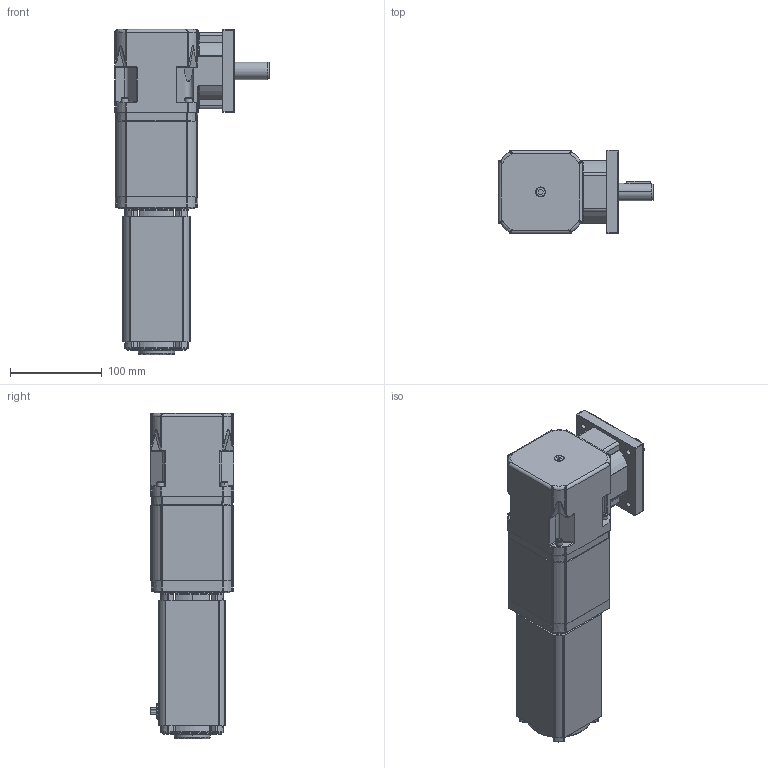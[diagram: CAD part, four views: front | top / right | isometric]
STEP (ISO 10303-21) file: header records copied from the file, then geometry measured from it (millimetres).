
FILE_DESCRIPTION (( 'STEP AP214' ), '1' );
FILE_NAME ('BL6560-RP7300_2S.STEP', '2013-08-28T18:02:41', ( '' ), ( '' ), 'SwSTEP 2.0', 'SolidWorks 2013', '' );
FILE_SCHEMA (( 'AUTOMOTIVE_DESIGN' ));
Length unit declared in the file: inch
Products named in the file (1): BL6560-RP7300_2S
Bounding box: 167.94 x 91.21 x 353.85 mm (x, y, z)
Surface area: 231717 mm2 (no closed solid volume)
Topology: 0 solids, 76 shells, 1268 faces, 4380 edges, 3058 vertices
Faces by surface type: cylinder 466, plane 359, cone 179, torus 144, bspline 85, sphere 35
Entity records: 69725 total; most frequent: CARTESIAN_POINT 16765, DIRECTION 7852, ORIENTED_EDGE 6781, EDGE_CURVE 4325, VERTEX_POINT 3058, AXIS2_PLACEMENT_3D 2975, VECTOR 1902, LINE 1902
